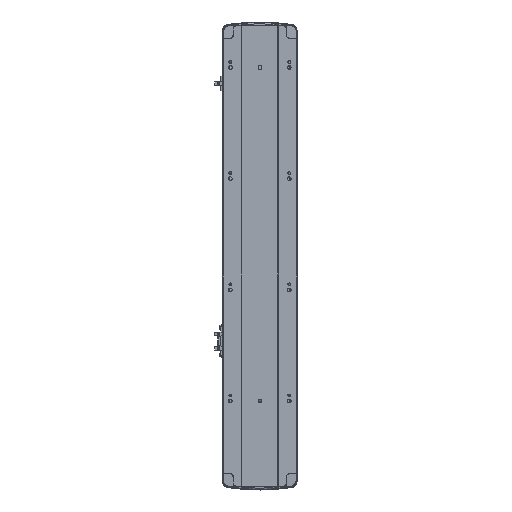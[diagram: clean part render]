
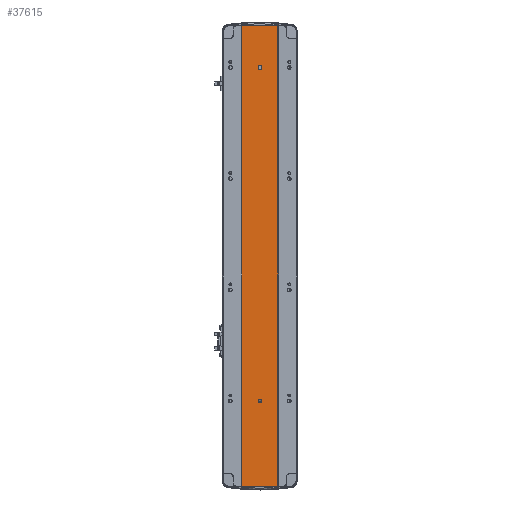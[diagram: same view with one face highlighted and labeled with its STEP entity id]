
A CAD part, top view. The second image highlights one B-rep face of the part: STEP entity #37615.
In plain terms, the highlighted planar face has unit normal (0, 0, 1).
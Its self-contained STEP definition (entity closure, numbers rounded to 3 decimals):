
#69 = FACE_BOUND ( 'NONE', #17175, .T. ) ;
#291 = AXIS2_PLACEMENT_3D ( 'NONE', #44808, #2694, #30855 ) ;
#435 = CARTESIAN_POINT ( 'NONE',  ( 0., 153.5, 35.45 ) ) ;
#1445 = CARTESIAN_POINT ( 'NONE',  ( 32.5, 829., 35.45 ) ) ;
#1503 = ORIENTED_EDGE ( 'NONE', *, *, #22608, .F. ) ;
#1740 = CARTESIAN_POINT ( 'NONE',  ( 3., 754.5, 35.45 ) ) ;
#1983 = EDGE_CURVE ( 'NONE', #22682, #27890, #8896, .T. ) ;
#2571 = CARTESIAN_POINT ( 'NONE',  ( -32.5, 0., 35.45 ) ) ;
#2694 = DIRECTION ( 'NONE',  ( 0., 0., 1. ) ) ;
#3111 = EDGE_CURVE ( 'NONE', #32894, #42568, #37870, .T. ) ;
#3751 = EDGE_CURVE ( 'NONE', #8924, #45134, #25628, .T. ) ;
#3951 = EDGE_LOOP ( 'NONE', ( #34052, #35883, #24283, #33508 ) ) ;
#4412 = VERTEX_POINT ( 'NONE', #41816 ) ;
#4896 = CIRCLE ( 'NONE', #21853, 3. ) ;
#5272 = VERTEX_POINT ( 'NONE', #40333 ) ;
#5482 = DIRECTION ( 'NONE',  ( 0., 0., 1. ) ) ;
#5744 = LINE ( 'NONE', #8985, #13440 ) ;
#6117 = DIRECTION ( 'NONE',  ( 0., -1., 0. ) ) ;
#6525 = VECTOR ( 'NONE', #23450, 1000. ) ;
#7321 = DIRECTION ( 'NONE',  ( 1., 0., 0. ) ) ;
#7501 = LINE ( 'NONE', #22694, #21207 ) ;
#7667 = EDGE_CURVE ( 'NONE', #4412, #10852, #7501, .T. ) ;
#7755 = CARTESIAN_POINT ( 'NONE',  ( -3., 754.5, 35.45 ) ) ;
#8896 = CIRCLE ( 'NONE', #16650, 3. ) ;
#8924 = VERTEX_POINT ( 'NONE', #41615 ) ;
#8985 = CARTESIAN_POINT ( 'NONE',  ( -32.5, 829., 35.45 ) ) ;
#9295 = CARTESIAN_POINT ( 'NONE',  ( 0., 752.5, 35.45 ) ) ;
#9800 = EDGE_CURVE ( 'NONE', #42568, #22682, #12666, .T. ) ;
#10852 = VERTEX_POINT ( 'NONE', #32512 ) ;
#11514 = ORIENTED_EDGE ( 'NONE', *, *, #22099, .F. ) ;
#12666 = LINE ( 'NONE', #17143, #20893 ) ;
#13440 = VECTOR ( 'NONE', #16016, 1000. ) ;
#14259 = CARTESIAN_POINT ( 'NONE',  ( 3., 752.5, 35.45 ) ) ;
#15475 = PLANE ( 'NONE',  #33451 ) ;
#15805 = CARTESIAN_POINT ( 'NONE',  ( 3., 153.5, 35.45 ) ) ;
#16016 = DIRECTION ( 'NONE',  ( 1., 0., 0. ) ) ;
#16650 = AXIS2_PLACEMENT_3D ( 'NONE', #9295, #30270, #27049 ) ;
#17106 = ORIENTED_EDGE ( 'NONE', *, *, #7667, .T. ) ;
#17143 = CARTESIAN_POINT ( 'NONE',  ( -3., 752.5, 35.45 ) ) ;
#17175 = EDGE_LOOP ( 'NONE', ( #33371, #30357 ) ) ;
#19325 = EDGE_CURVE ( 'NONE', #27890, #32894, #44862, .T. ) ;
#20710 = CARTESIAN_POINT ( 'NONE',  ( 32.5, 829., 35.45 ) ) ;
#20782 = LINE ( 'NONE', #2571, #6525 ) ;
#20893 = VECTOR ( 'NONE', #6117, 1000. ) ;
#21207 = VECTOR ( 'NONE', #25719, 1000. ) ;
#21773 = DIRECTION ( 'NONE',  ( 0., 0., 1. ) ) ;
#21853 = AXIS2_PLACEMENT_3D ( 'NONE', #435, #21773, #7321 ) ;
#22099 = EDGE_CURVE ( 'NONE', #4412, #31918, #5744, .T. ) ;
#22608 = EDGE_CURVE ( 'NONE', #31918, #5272, #44602, .T. ) ;
#22682 = VERTEX_POINT ( 'NONE', #41383 ) ;
#22694 = CARTESIAN_POINT ( 'NONE',  ( -32.5, 829., 35.45 ) ) ;
#23450 = DIRECTION ( 'NONE',  ( 1., 0., 0. ) ) ;
#24283 = ORIENTED_EDGE ( 'NONE', *, *, #9800, .F. ) ;
#25137 = VECTOR ( 'NONE', #42305, 1000. ) ;
#25628 = CIRCLE ( 'NONE', #291, 3. ) ;
#25719 = DIRECTION ( 'NONE',  ( 0., -1., 0. ) ) ;
#25871 = CARTESIAN_POINT ( 'NONE',  ( 0., 754.5, 35.45 ) ) ;
#26060 = EDGE_CURVE ( 'NONE', #10852, #5272, #20782, .T. ) ;
#27049 = DIRECTION ( 'NONE',  ( 1., 0., 0. ) ) ;
#27130 = ORIENTED_EDGE ( 'NONE', *, *, #26060, .T. ) ;
#27890 = VERTEX_POINT ( 'NONE', #14259 ) ;
#29260 = VECTOR ( 'NONE', #34458, 1000. ) ;
#30270 = DIRECTION ( 'NONE',  ( 0., 0., 1. ) ) ;
#30357 = ORIENTED_EDGE ( 'NONE', *, *, #3751, .F. ) ;
#30855 = DIRECTION ( 'NONE',  ( 1., 0., 0. ) ) ;
#31918 = VERTEX_POINT ( 'NONE', #1445 ) ;
#32512 = CARTESIAN_POINT ( 'NONE',  ( -32.5, 0., 35.45 ) ) ;
#32894 = VERTEX_POINT ( 'NONE', #1740 ) ;
#33371 = ORIENTED_EDGE ( 'NONE', *, *, #39348, .F. ) ;
#33410 = AXIS2_PLACEMENT_3D ( 'NONE', #25871, #5482, #43954 ) ;
#33451 = AXIS2_PLACEMENT_3D ( 'NONE', #43351, #36114, #35825 ) ;
#33508 = ORIENTED_EDGE ( 'NONE', *, *, #3111, .F. ) ;
#34052 = ORIENTED_EDGE ( 'NONE', *, *, #19325, .F. ) ;
#34458 = DIRECTION ( 'NONE',  ( 0., -1., 0. ) ) ;
#35825 = DIRECTION ( 'NONE',  ( -1., 0., 0. ) ) ;
#35883 = ORIENTED_EDGE ( 'NONE', *, *, #1983, .F. ) ;
#36114 = DIRECTION ( 'NONE',  ( 0., 0., -1. ) ) ;
#37615 = ADVANCED_FACE ( 'NONE', ( #69, #42833, #38406 ), #15475, .F. ) ;
#37870 = CIRCLE ( 'NONE', #33410, 3. ) ;
#38406 = FACE_OUTER_BOUND ( 'NONE', #41026, .T. ) ;
#38448 = CARTESIAN_POINT ( 'NONE',  ( 3., 752.5, 35.45 ) ) ;
#39348 = EDGE_CURVE ( 'NONE', #45134, #8924, #4896, .T. ) ;
#40333 = CARTESIAN_POINT ( 'NONE',  ( 32.5, 0., 35.45 ) ) ;
#41026 = EDGE_LOOP ( 'NONE', ( #27130, #1503, #11514, #17106 ) ) ;
#41383 = CARTESIAN_POINT ( 'NONE',  ( -3., 752.5, 35.45 ) ) ;
#41615 = CARTESIAN_POINT ( 'NONE',  ( -3., 153.5, 35.45 ) ) ;
#41816 = CARTESIAN_POINT ( 'NONE',  ( -32.5, 829., 35.45 ) ) ;
#42305 = DIRECTION ( 'NONE',  ( 0., 1., 0. ) ) ;
#42568 = VERTEX_POINT ( 'NONE', #7755 ) ;
#42833 = FACE_BOUND ( 'NONE', #3951, .T. ) ;
#43351 = CARTESIAN_POINT ( 'NONE',  ( -32.5, 829., 35.45 ) ) ;
#43954 = DIRECTION ( 'NONE',  ( 1., 0., 0. ) ) ;
#44602 = LINE ( 'NONE', #20710, #29260 ) ;
#44808 = CARTESIAN_POINT ( 'NONE',  ( 0., 153.5, 35.45 ) ) ;
#44862 = LINE ( 'NONE', #38448, #25137 ) ;
#45134 = VERTEX_POINT ( 'NONE', #15805 ) ;
